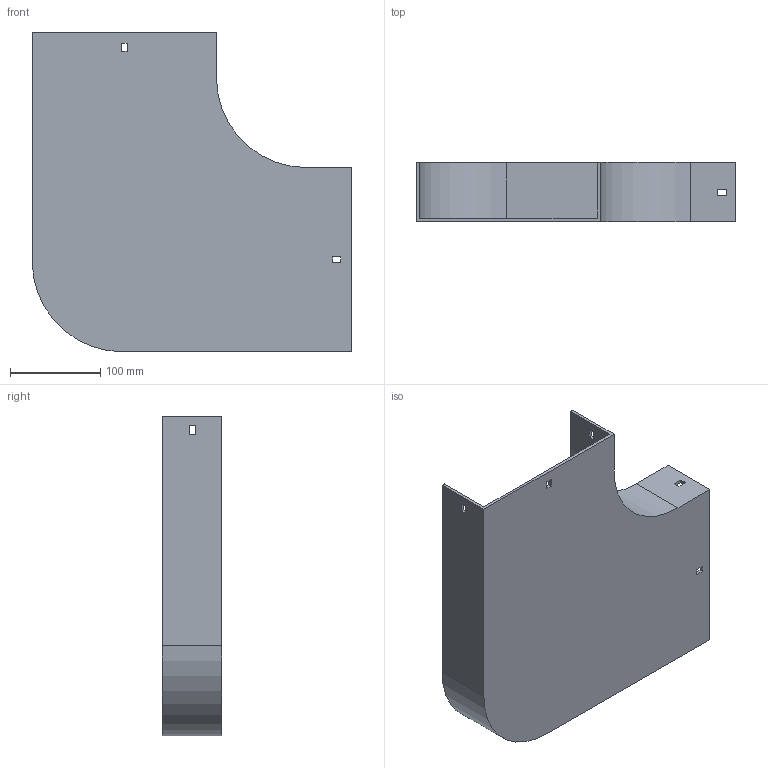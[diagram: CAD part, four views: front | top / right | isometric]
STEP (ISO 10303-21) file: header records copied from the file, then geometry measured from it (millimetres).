
FILE_DESCRIPTION (( 'STEP AP214' ), '1' );
FILE_NAME ('10B1H200.step', '2025-02-21T09:41:07', ( '' ), ( '' ), 'SwSTEP 2.0', 'SolidWorks 2023', '' );
FILE_SCHEMA (( 'AUTOMOTIVE_DESIGN' ));
Length unit declared in the file: millimetre
Products named in the file (1): 10B1H200
Bounding box: 354 x 65.5 x 354 mm (x, y, z)
Volume: 558575.1 mm3; surface area: 325402.3 mm2
Topology: 1 solids, 1 shells, 42 faces, 120 edges, 80 vertices
Faces by surface type: plane 38, cylinder 4
Entity records: 1399 total; most frequent: CARTESIAN_POINT 243, ORIENTED_EDGE 240, DIRECTION 214, EDGE_CURVE 120, VECTOR 112, LINE 112, VERTEX_POINT 80, EDGE_LOOP 54
